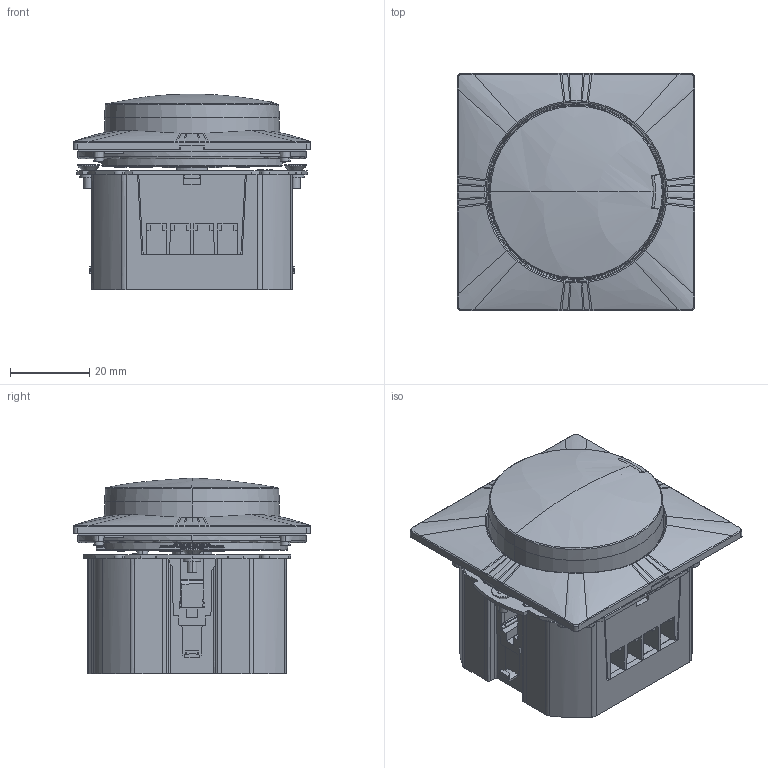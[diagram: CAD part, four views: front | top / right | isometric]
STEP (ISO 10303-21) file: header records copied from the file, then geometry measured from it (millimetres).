
FILE_DESCRIPTION((''),'2;1');
FILE_NAME('40200LEDF61_ASM','2022-05-26T13:12:21',('SESA231899'),('Schneider-Electric'),'CREO PARAMETRIC BY PTC INC, 2019471','CREO PARAMETRIC BY PTC INC, 2019471','');
FILE_SCHEMA(('CONFIG_CONTROL_DESIGN'));
Length unit declared in the file: millimetre
Products named in the file (7): 40200LEDF61; 213550; 40200LEDF61-3D_ASM; 221391_1_C; 221393_1_C; 123456_ASM; 40200LEDF61_ASM
Assembly tree (7 placements, depth 3):
  40200LEDF61_ASM
    40200LEDF61-3D_ASM
      40200LEDF61
      213550  x2
    123456_ASM
      221391_1_C
      221393_1_C
Bounding box: 59.7 x 59.7 x 49.3 mm (x, y, z)
Volume: 79618.3 mm3; surface area: 31535.1 mm2
Topology: 5 solids, 5 shells, 1763 faces, 4768 edges, 3006 vertices
Faces by surface type: plane 768, cylinder 334, extrusion 290, bspline 230, torus 54, cone 51, sphere 36
Entity records: 74775 total; most frequent: CARTESIAN_POINT 33873, ORIENTED_EDGE 9354, DIRECTION 7013, EDGE_CURVE 4677, VERTEX_POINT 2970, VECTOR 2705, LINE 2415, AXIS2_PLACEMENT_3D 2154
